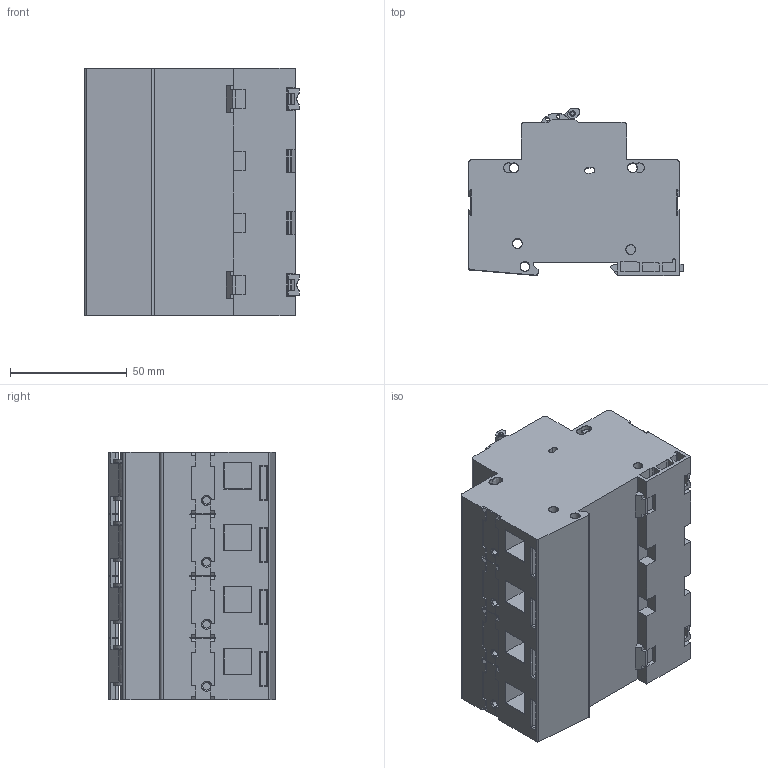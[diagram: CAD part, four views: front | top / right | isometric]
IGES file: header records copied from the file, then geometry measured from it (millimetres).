
Start section: SolidWorks IGES file using analytic representation for surfaces
Global section: file name: U:\14_RD\05_Technical_office\04_Office\Hrdinova\3D modely - IGES\Minia\AST-4.IGS; native system: SolidWorks 2011; preprocessor: SolidWorks 2011; author: adhrja3; date: 170615.071708; units: millimetre
Bounding box: 91.7 x 71.47 x 106 mm (x, y, z)
Surface area: 68222.9 mm2 (no closed solid volume)
Topology: 0 solids, 0 shells, 1342 faces, 15366 edges, 15366 vertices
Faces by surface type: bspline 853, revolution 489
